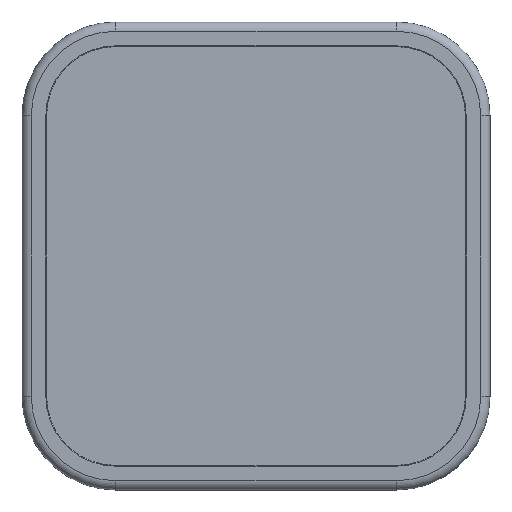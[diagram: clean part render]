
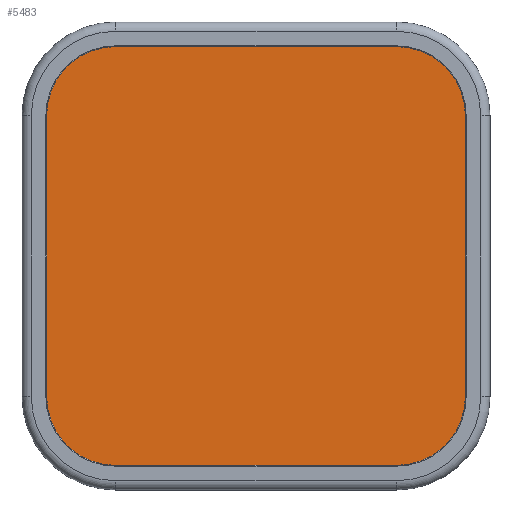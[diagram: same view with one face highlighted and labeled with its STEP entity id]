
A CAD part, front view. The second image highlights one B-rep face of the part: STEP entity #5483.
In plain terms, the highlighted planar face has unit normal (0, -1, 0) as drawn and (0, 0, 1) by its records, which use the part's own axes.
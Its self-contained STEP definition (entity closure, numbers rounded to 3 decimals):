
#5252=CARTESIAN_POINT('',(-60.,-60.,0.));
#5253=DIRECTION('',(0.,0.,-1.));
#5254=DIRECTION('',(0.,-1.,0.));
#5255=AXIS2_PLACEMENT_3D('',#5252,#5253,#5254);
#5260=DIRECTION('',(0.,1.,0.));
#5261=VECTOR('',#5260,120.);
#5262=CARTESIAN_POINT('',(-94.5,-60.,0.));
#5263=LINE('',#5262,#5261);
#5267=CARTESIAN_POINT('',(-60.,60.,0.));
#5268=DIRECTION('',(0.,0.,-1.));
#5269=DIRECTION('',(-1.,0.,0.));
#5270=AXIS2_PLACEMENT_3D('',#5267,#5268,#5269);
#5275=DIRECTION('',(1.,0.,0.));
#5276=VECTOR('',#5275,120.);
#5277=CARTESIAN_POINT('',(-60.,94.5,0.));
#5278=LINE('',#5277,#5276);
#5282=CARTESIAN_POINT('',(60.,60.,0.));
#5283=DIRECTION('',(0.,0.,-1.));
#5284=DIRECTION('',(0.,1.,0.));
#5285=AXIS2_PLACEMENT_3D('',#5282,#5283,#5284);
#5290=DIRECTION('',(0.,-1.,0.));
#5291=VECTOR('',#5290,120.);
#5292=CARTESIAN_POINT('',(94.5,60.,0.));
#5293=LINE('',#5292,#5291);
#5297=CARTESIAN_POINT('',(60.,-60.,0.));
#5298=DIRECTION('',(0.,0.,-1.));
#5299=DIRECTION('',(1.,0.,0.));
#5300=AXIS2_PLACEMENT_3D('',#5297,#5298,#5299);
#5305=DIRECTION('',(-1.,0.,0.));
#5306=VECTOR('',#5305,120.);
#5307=CARTESIAN_POINT('',(60.,-94.5,0.));
#5308=LINE('',#5307,#5306);
#5428=CARTESIAN_POINT('',(-60.,-94.5,0.));
#5429=CARTESIAN_POINT('',(-94.5,-60.,0.));
#5430=VERTEX_POINT('',#5428);
#5431=VERTEX_POINT('',#5429);
#5432=CARTESIAN_POINT('',(-94.5,60.,0.));
#5433=VERTEX_POINT('',#5432);
#5434=CARTESIAN_POINT('',(-60.,94.5,0.));
#5435=VERTEX_POINT('',#5434);
#5436=CARTESIAN_POINT('',(60.,94.5,0.));
#5437=VERTEX_POINT('',#5436);
#5438=CARTESIAN_POINT('',(94.5,60.,0.));
#5439=VERTEX_POINT('',#5438);
#5440=CARTESIAN_POINT('',(94.5,-60.,0.));
#5441=VERTEX_POINT('',#5440);
#5442=CARTESIAN_POINT('',(60.,-94.5,0.));
#5443=VERTEX_POINT('',#5442);
#5460=CARTESIAN_POINT('',(0.,0.,0.));
#5461=DIRECTION('',(0.,0.,1.));
#5462=DIRECTION('',(0.,1.,0.));
#5463=AXIS2_PLACEMENT_3D('',#5460,#5461,#5462);
#5464=PLANE('',#5463);
#5466=ORIENTED_EDGE('',*,*,#5465,.T.);
#5468=ORIENTED_EDGE('',*,*,#5467,.T.);
#5470=ORIENTED_EDGE('',*,*,#5469,.T.);
#5472=ORIENTED_EDGE('',*,*,#5471,.T.);
#5474=ORIENTED_EDGE('',*,*,#5473,.T.);
#5476=ORIENTED_EDGE('',*,*,#5475,.T.);
#5478=ORIENTED_EDGE('',*,*,#5477,.T.);
#5480=ORIENTED_EDGE('',*,*,#5479,.T.);
#5481=EDGE_LOOP('',(#5466,#5468,#5470,#5472,#5474,#5476,#5478,#5480));
#5482=FACE_OUTER_BOUND('',#5481,.F.);
#5483=ADVANCED_FACE('',(#5482),#5464,.T.);
#5256=CIRCLE('',#5255,34.5);
#5271=CIRCLE('',#5270,34.5);
#5286=CIRCLE('',#5285,34.5);
#5301=CIRCLE('',#5300,34.5);
#5465=EDGE_CURVE('',#5430,#5431,#5256,.T.);
#5467=EDGE_CURVE('',#5431,#5433,#5263,.T.);
#5469=EDGE_CURVE('',#5433,#5435,#5271,.T.);
#5471=EDGE_CURVE('',#5435,#5437,#5278,.T.);
#5473=EDGE_CURVE('',#5437,#5439,#5286,.T.);
#5475=EDGE_CURVE('',#5439,#5441,#5293,.T.);
#5477=EDGE_CURVE('',#5441,#5443,#5301,.T.);
#5479=EDGE_CURVE('',#5443,#5430,#5308,.T.);
